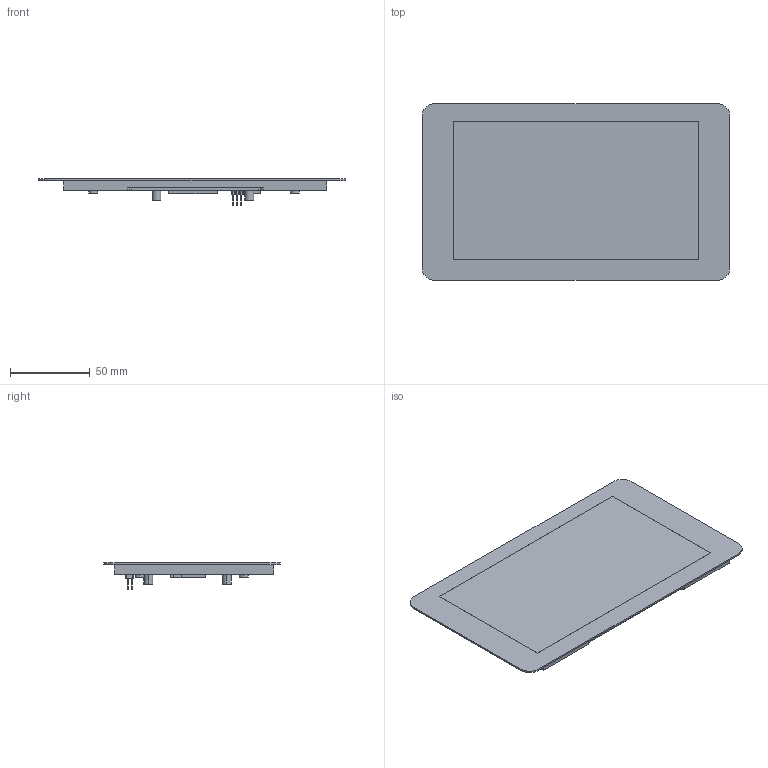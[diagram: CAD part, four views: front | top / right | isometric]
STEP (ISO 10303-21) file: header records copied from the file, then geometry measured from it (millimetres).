
FILE_DESCRIPTION((''),'2;1');
FILE_NAME('37','2021-09-29T',('Administrator'),(''),'PRO/ENGINEER BY PARAMETRIC TECHNOLOGY CORPORATION, 2002350','PRO/ENGINEER BY PARAMETRIC TECHNOLOGY CORPORATION, 2002350','');
FILE_SCHEMA(('CONFIG_CONTROL_DESIGN'));
Length unit declared in the file: millimetre
Products named in the file (1): 37
Bounding box: 193 x 111 x 16.4 mm (x, y, z)
Volume: 120682.8 mm3; surface area: 48033.1 mm2
Topology: 1 solids, 1 shells, 142 faces, 336 edges, 224 vertices
Faces by surface type: plane 102, cylinder 40
Entity records: 4118 total; most frequent: CARTESIAN_POINT 702, DIRECTION 700, ORIENTED_EDGE 672, EDGE_CURVE 336, VECTOR 256, LINE 256, VERTEX_POINT 224, AXIS2_PLACEMENT_3D 222
